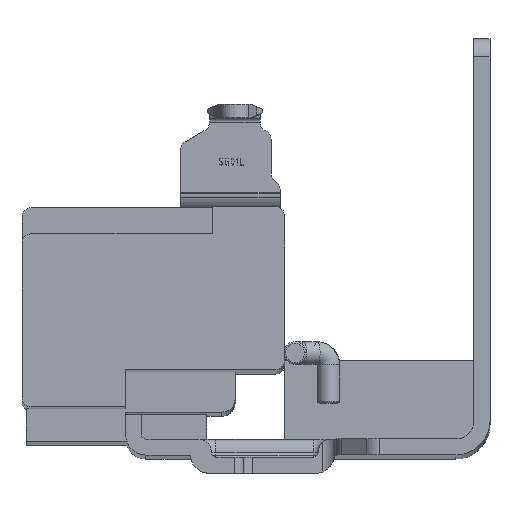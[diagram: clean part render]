
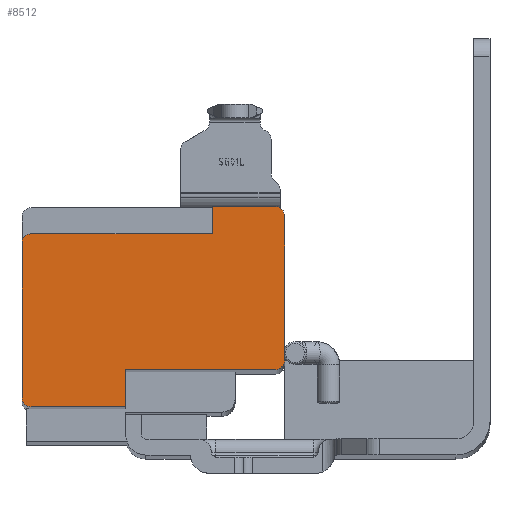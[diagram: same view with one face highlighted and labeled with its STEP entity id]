
A CAD part, top view. The second image highlights one B-rep face of the part: STEP entity #8512.
In plain terms, the highlighted planar face has unit normal (0, 0, 1).
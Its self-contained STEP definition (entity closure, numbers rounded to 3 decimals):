
#97 = LINE ( 'NONE', #2437, #9205 ) ;
#110 = ORIENTED_EDGE ( 'NONE', *, *, #6647, .F. ) ;
#264 = EDGE_CURVE ( 'NONE', #2573, #10306, #6991, .T. ) ;
#334 = CIRCLE ( 'NONE', #4157, 1. ) ;
#407 = CARTESIAN_POINT ( 'NONE',  ( -49.4, 2.748, -18.7 ) ) ;
#588 = CARTESIAN_POINT ( 'NONE',  ( -71.63, -19.352, -18.7 ) ) ;
#632 = VERTEX_POINT ( 'NONE', #5166 ) ;
#746 = EDGE_CURVE ( 'NONE', #5228, #3288, #8144, .T. ) ;
#821 = ORIENTED_EDGE ( 'NONE', *, *, #10261, .T. ) ;
#840 = DIRECTION ( 'NONE',  ( -1., 0., 0. ) ) ;
#873 = ORIENTED_EDGE ( 'NONE', *, *, #9321, .F. ) ;
#1079 = VERTEX_POINT ( 'NONE', #3613 ) ;
#1141 = CARTESIAN_POINT ( 'NONE',  ( -61.2, -15.252, -18.7 ) ) ;
#1194 = DIRECTION ( 'NONE',  ( -1., 0., 0. ) ) ;
#1277 = DIRECTION ( 'NONE',  ( 0., 0., -1. ) ) ;
#1669 = AXIS2_PLACEMENT_3D ( 'NONE', #10373, #5123, #11265 ) ;
#1761 = CARTESIAN_POINT ( 'NONE',  ( -71.66, -1.222, -18.7 ) ) ;
#1815 = CARTESIAN_POINT ( 'NONE',  ( -71.63, -18.352, -18.7 ) ) ;
#1847 = VECTOR ( 'NONE', #6635, 1000. ) ;
#2013 = CARTESIAN_POINT ( 'NONE',  ( -44.6, -15.252, -18.7 ) ) ;
#2022 = EDGE_CURVE ( 'NONE', #5228, #2489, #4471, .T. ) ;
#2171 = DIRECTION ( 'NONE',  ( -1., 0., 0. ) ) ;
#2222 = ORIENTED_EDGE ( 'NONE', *, *, #9043, .F. ) ;
#2276 = LINE ( 'NONE', #407, #11366 ) ;
#2277 = VECTOR ( 'NONE', #840, 1000. ) ;
#2330 = AXIS2_PLACEMENT_3D ( 'NONE', #8756, #3481, #9629 ) ;
#2437 = CARTESIAN_POINT ( 'NONE',  ( -3.375, -19.352, -18.7 ) ) ;
#2489 = VERTEX_POINT ( 'NONE', #10103 ) ;
#2527 = EDGE_CURVE ( 'NONE', #6200, #9254, #334, .T. ) ;
#2544 = CARTESIAN_POINT ( 'NONE',  ( -43.6, -14.252, -18.7 ) ) ;
#2568 = PLANE ( 'NONE',  #2330 ) ;
#2573 = VERTEX_POINT ( 'NONE', #588 ) ;
#2651 = DIRECTION ( 'NONE',  ( -1., 0., 0. ) ) ;
#2906 = DIRECTION ( 'NONE',  ( 0., 1., 0. ) ) ;
#3184 = CARTESIAN_POINT ( 'NONE',  ( -44.6, -14.252, -18.7 ) ) ;
#3288 = VERTEX_POINT ( 'NONE', #9594 ) ;
#3289 = VECTOR ( 'NONE', #2906, 1000. ) ;
#3476 = CARTESIAN_POINT ( 'NONE',  ( -41.8, -0.252, -18.7 ) ) ;
#3481 = DIRECTION ( 'NONE',  ( 0., 0., 1. ) ) ;
#3546 = ORIENTED_EDGE ( 'NONE', *, *, #5668, .F. ) ;
#3613 = CARTESIAN_POINT ( 'NONE',  ( -44.6, 2.748, -18.7 ) ) ;
#3787 = ORIENTED_EDGE ( 'NONE', *, *, #11308, .F. ) ;
#3955 = CARTESIAN_POINT ( 'NONE',  ( -61.2, -0.732, -18.7 ) ) ;
#3964 = CARTESIAN_POINT ( 'NONE',  ( -3.375, -15.252, -18.7 ) ) ;
#4071 = DIRECTION ( 'NONE',  ( -1., 0., 0. ) ) ;
#4157 = AXIS2_PLACEMENT_3D ( 'NONE', #3184, #9352, #4071 ) ;
#4190 = CARTESIAN_POINT ( 'NONE',  ( -51.6, -0.252, -18.7 ) ) ;
#4191 = VECTOR ( 'NONE', #5931, 1000. ) ;
#4471 = LINE ( 'NONE', #4190, #4191 ) ;
#4802 = DIRECTION ( 'NONE',  ( 0., -1., 0. ) ) ;
#4848 = CARTESIAN_POINT ( 'NONE',  ( -43.6, -6.222, -18.7 ) ) ;
#5010 = ORIENTED_EDGE ( 'NONE', *, *, #2022, .F. ) ;
#5123 = DIRECTION ( 'NONE',  ( 0., 0., -1. ) ) ;
#5166 = CARTESIAN_POINT ( 'NONE',  ( -43.6, 1.748, -18.7 ) ) ;
#5228 = VERTEX_POINT ( 'NONE', #8873 ) ;
#5540 = CARTESIAN_POINT ( 'NONE',  ( -72.63, -13.752, -18.7 ) ) ;
#5645 = LINE ( 'NONE', #5540, #3289 ) ;
#5668 = EDGE_CURVE ( 'NONE', #632, #6200, #7175, .T. ) ;
#5931 = DIRECTION ( 'NONE',  ( 0., 1., 0. ) ) ;
#6200 = VERTEX_POINT ( 'NONE', #2544 ) ;
#6249 = LINE ( 'NONE', #3964, #10917 ) ;
#6518 = ORIENTED_EDGE ( 'NONE', *, *, #264, .F. ) ;
#6583 = DIRECTION ( 'NONE',  ( 1., 0., 0. ) ) ;
#6635 = DIRECTION ( 'NONE',  ( 0., 1., 0. ) ) ;
#6647 = EDGE_CURVE ( 'NONE', #10002, #3288, #7187, .T. ) ;
#6699 = CARTESIAN_POINT ( 'NONE',  ( -72.63, -18.352, -18.7 ) ) ;
#6781 = AXIS2_PLACEMENT_3D ( 'NONE', #1815, #1277, #1194 ) ;
#6823 = EDGE_LOOP ( 'NONE', ( #5010, #7746, #110, #7250, #6518, #2222, #821, #3787, #9483, #3546, #9727, #873 ) ) ;
#6987 = EDGE_CURVE ( 'NONE', #1079, #632, #11422, .T. ) ;
#6991 = CIRCLE ( 'NONE', #6781, 1. ) ;
#7175 = LINE ( 'NONE', #4848, #9238 ) ;
#7187 = CIRCLE ( 'NONE', #10962, 0.97 ) ;
#7250 = ORIENTED_EDGE ( 'NONE', *, *, #7775, .F. ) ;
#7746 = ORIENTED_EDGE ( 'NONE', *, *, #746, .T. ) ;
#7775 = EDGE_CURVE ( 'NONE', #10306, #10002, #5645, .T. ) ;
#7784 = CARTESIAN_POINT ( 'NONE',  ( -72.63, -1.222, -18.7 ) ) ;
#7947 = DIRECTION ( 'NONE',  ( 0., 0., -1. ) ) ;
#8144 = LINE ( 'NONE', #3476, #2277 ) ;
#8512 = ADVANCED_FACE ( 'NONE', ( #10993 ), #2568, .T. ) ;
#8563 = VERTEX_POINT ( 'NONE', #11386 ) ;
#8622 = LINE ( 'NONE', #3955, #1847 ) ;
#8756 = CARTESIAN_POINT ( 'NONE',  ( -71.63, -13.752, -18.7 ) ) ;
#8873 = CARTESIAN_POINT ( 'NONE',  ( -51.6, -0.252, -18.7 ) ) ;
#9043 = EDGE_CURVE ( 'NONE', #8563, #2573, #97, .T. ) ;
#9205 = VECTOR ( 'NONE', #9568, 1000. ) ;
#9238 = VECTOR ( 'NONE', #4802, 1000. ) ;
#9246 = VERTEX_POINT ( 'NONE', #1141 ) ;
#9254 = VERTEX_POINT ( 'NONE', #2013 ) ;
#9321 = EDGE_CURVE ( 'NONE', #2489, #1079, #2276, .T. ) ;
#9352 = DIRECTION ( 'NONE',  ( 0., 0., -1. ) ) ;
#9483 = ORIENTED_EDGE ( 'NONE', *, *, #2527, .F. ) ;
#9568 = DIRECTION ( 'NONE',  ( -1., 0., 0. ) ) ;
#9594 = CARTESIAN_POINT ( 'NONE',  ( -71.66, -0.252, -18.7 ) ) ;
#9629 = DIRECTION ( 'NONE',  ( -1., 0., 0. ) ) ;
#9727 = ORIENTED_EDGE ( 'NONE', *, *, #6987, .F. ) ;
#10002 = VERTEX_POINT ( 'NONE', #7784 ) ;
#10103 = CARTESIAN_POINT ( 'NONE',  ( -51.6, 2.748, -18.7 ) ) ;
#10261 = EDGE_CURVE ( 'NONE', #8563, #9246, #8622, .T. ) ;
#10306 = VERTEX_POINT ( 'NONE', #6699 ) ;
#10373 = CARTESIAN_POINT ( 'NONE',  ( -44.6, 1.748, -18.7 ) ) ;
#10917 = VECTOR ( 'NONE', #2171, 1000. ) ;
#10962 = AXIS2_PLACEMENT_3D ( 'NONE', #1761, #7947, #2651 ) ;
#10993 = FACE_OUTER_BOUND ( 'NONE', #6823, .T. ) ;
#11265 = DIRECTION ( 'NONE',  ( -1., 0., 0. ) ) ;
#11308 = EDGE_CURVE ( 'NONE', #9254, #9246, #6249, .T. ) ;
#11366 = VECTOR ( 'NONE', #6583, 1000. ) ;
#11386 = CARTESIAN_POINT ( 'NONE',  ( -61.2, -19.352, -18.7 ) ) ;
#11422 = CIRCLE ( 'NONE', #1669, 1. ) ;
